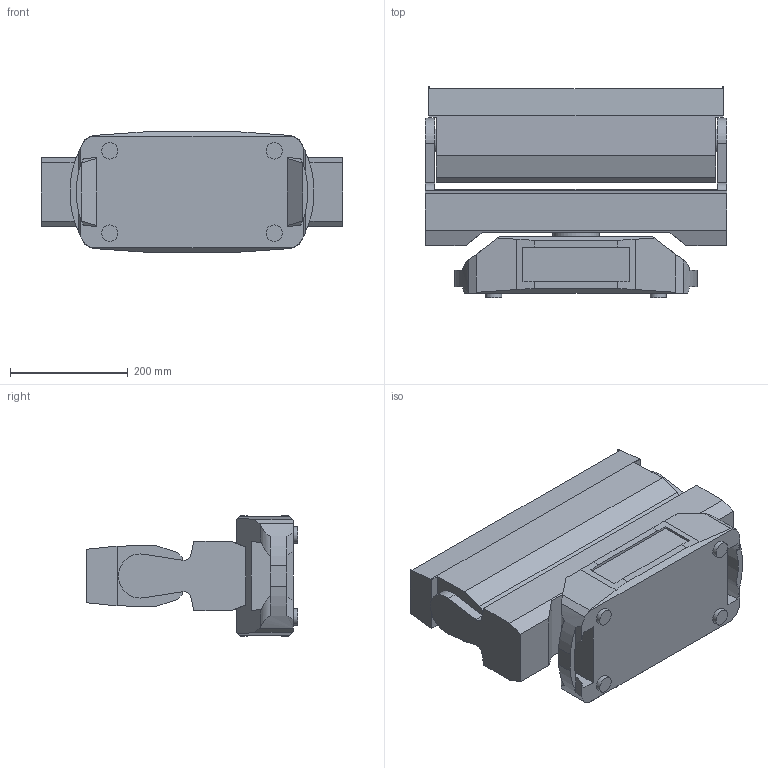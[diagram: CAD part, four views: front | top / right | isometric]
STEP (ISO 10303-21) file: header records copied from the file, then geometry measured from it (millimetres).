
FILE_DESCRIPTION(/* description */ ('Unknown'),/* implementation_level */ '2;1');
FILE_NAME(/* name */ '3D-Tetra X',/* time_stamp */ '2022-02-17T16:13:40+01:00',/* author */ ('Ing.Rostislav HĂˇba'),/* organization */ ('ROBE lighting'),/* preprocessor_version */ 'ST-DEVELOPER v16.7',/* originating_system */ 'Solid Edge',/* authorisation */ 'Unknown');
FILE_SCHEMA (('CONFIG_CONTROL_DESIGN'));
Length unit declared in the file: millimetre
Products named in the file (4): 3D-Tetra X; TTX-base; TTX-arm; TTX-head
Assembly tree (3 placements, depth 2):
  3D-Tetra X
    TTX-base
    TTX-arm
    TTX-head
Bounding box: 512.85 x 359.61 x 205.51 mm (x, y, z)
Volume: 18945746.4 mm3; surface area: 798008.5 mm2
Topology: 3 solids, 3 shells, 124 faces, 344 edges, 232 vertices
Faces by surface type: plane 96, cylinder 28
Full cylindrical faces by diameter (mm): 28 x4, 37 x2, 40.481 x2, 60.901 x1, 79.371 x1
Entity records: 4001 total; most frequent: CARTESIAN_POINT 732, DIRECTION 658, ORIENTED_EDGE 652, EDGE_CURVE 326, LINE 234, VECTOR 234, VERTEX_POINT 224, AXIS2_PLACEMENT_3D 212
